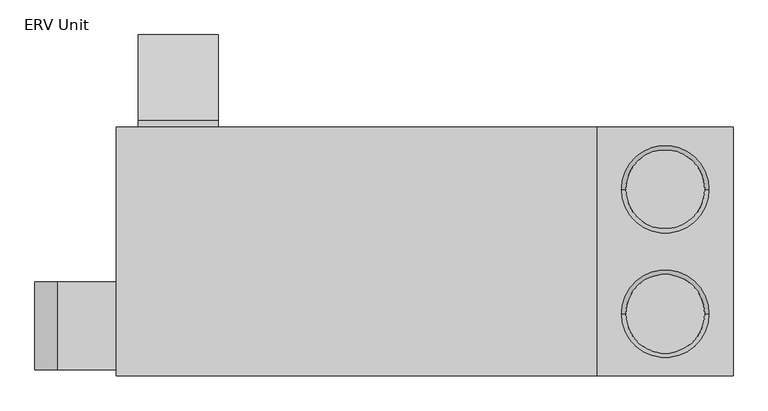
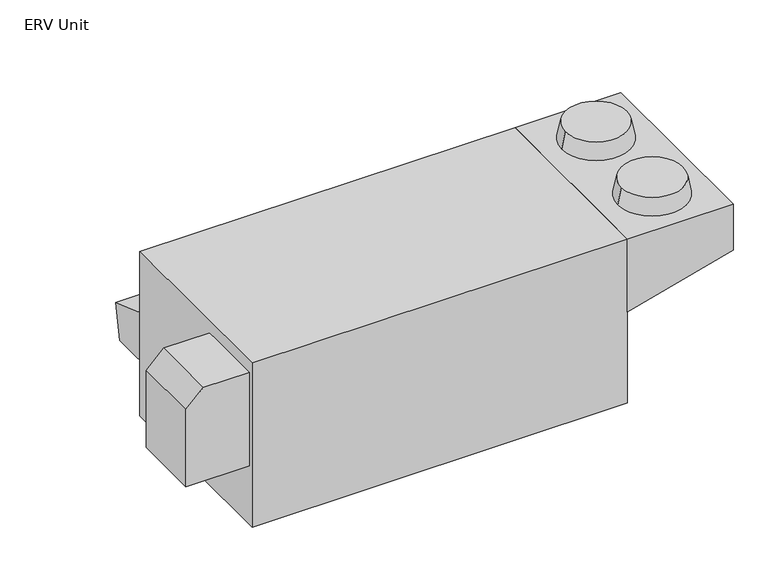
"""IFC4 building model written with IfcOpenShell, lengths in millimetres: proxy geometry, Energy Recovery-ER_H : ERV Unit."""

from ifc_helpers import new_model, si_unit, frame, origin, place, context, project, spatial, polyline, circle_curve, outline, extrude, source, transform, mapped, element, save
from ifc_brep_helpers import plane_surface, revolved_surface, advanced_brep


def erv_unit_62530c4e(model_context):
    return source(origin(), model_context, "Body", "SolidModel", [
        extrude(outline(polyline([(740.0249593, 200.025), (740.0249593, 635.0), (778.1249593, 635.0), (1267.0749593, 463.55), (1216.2749593, 200.025), (740.0249593, 200.025)])), frame((-44.3389519, 0.0, 0.0), z_axis=(1.0, 0.0, 0.0), x_axis=(0.0, 1.0, 0.0)), (0.0, 0.0, 1.0), 457.2),
        advanced_brep(
        [(3188.1285481, -326.7750407, 1346.2), (2736.6435481, -326.7750407, 1346.2), (3213.2110481, -326.7750407, 1219.2), (2711.5610481, -326.7750407, 1219.2)],
        [
            (0, 1, circle_curve(frame((2962.3860481, -326.7750407, 1346.2), z_axis=(0.0, 0.0, 1.0), x_axis=(1.0, 0.0, 0.0)), 225.7425)),
            (1, 0, circle_curve(frame((2962.3860481, -326.7750407, 1346.2), z_axis=(0.0, 0.0, 1.0), x_axis=(-1.0, 0.0, 0.0)), 225.7425)),
            (2, 3, circle_curve(frame((2962.3860481, -326.7750407, 1219.2), z_axis=(0.0, 0.0, -1.0), x_axis=(-1.0, 0.0, 0.0)), 250.825)),
            (3, 2, circle_curve(frame((2962.3860481, -326.7750407, 1219.2), z_axis=(0.0, 0.0, -1.0), x_axis=(1.0, 0.0, 0.0)), 250.825)),
            (3, 1),
            (0, 2),
        ],
        [
            plane_surface(frame((2962.3860481, -326.7750407, 1346.2), z_axis=(0.0, 0.0, 1.0), x_axis=(0.0, 1.0, 0.0))),
            plane_surface(frame((2962.3860481, -326.7750407, 1219.2), z_axis=(0.0, 0.0, -1.0), x_axis=(0.0, 1.0, 0.0))),
            revolved_surface(polyline([(3188.1285481, -326.7750407, 1346.2), (3213.2110481, -326.7750407, 1219.2)]), (2962.3860481, -326.7750407, 2489.2), (0.0, 0.0, -1.0)),
            revolved_surface(polyline([(2736.6435481, -326.7750407, 1346.2), (2711.5610481, -326.7750407, 1219.2)]), (2962.3860481, -326.7750407, 2489.2), (0.0, 0.0, -1.0)),
        ],
        [
            (0, [[1, 2]]),
            (1, [[3, 4]]),
            (2, [[-4, 5, -1, 6]]),
            (3, [[-3, -6, -2, -5]]),
        ],
    ),
        advanced_brep(
        [(3188.1285481, 384.4249593, 1346.2), (2736.6435481, 384.4249593, 1346.2), (3213.2110481, 384.4249593, 1219.2), (2711.5610481, 384.4249593, 1219.2)],
        [
            (0, 1, circle_curve(frame((2962.3860481, 384.4249593, 1346.2), z_axis=(0.0, 0.0, 1.0), x_axis=(1.0, 0.0, 0.0)), 225.7425)),
            (1, 0, circle_curve(frame((2962.3860481, 384.4249593, 1346.2), z_axis=(0.0, 0.0, 1.0), x_axis=(-1.0, 0.0, 0.0)), 225.7425)),
            (2, 3, circle_curve(frame((2962.3860481, 384.4249593, 1219.2), z_axis=(0.0, 0.0, -1.0), x_axis=(-1.0, 0.0, 0.0)), 250.825)),
            (3, 2, circle_curve(frame((2962.3860481, 384.4249593, 1219.2), z_axis=(0.0, 0.0, -1.0), x_axis=(1.0, 0.0, 0.0)), 250.825)),
            (3, 1),
            (0, 2),
        ],
        [
            plane_surface(frame((2962.3860481, 384.4249593, 1346.2), z_axis=(0.0, 0.0, 1.0), x_axis=(0.0, 1.0, 0.0))),
            plane_surface(frame((2962.3860481, 384.4249593, 1219.2), z_axis=(0.0, 0.0, -1.0), x_axis=(0.0, 1.0, 0.0))),
            revolved_surface(polyline([(3188.1285481, 384.4249593, 1346.2), (3213.2110481, 384.4249593, 1219.2)]), (2962.3860481, 384.4249593, 2489.2), (0.0, 0.0, -1.0)),
            revolved_surface(polyline([(2736.6435481, 384.4249593, 1346.2), (2711.5610481, 384.4249593, 1219.2)]), (2962.3860481, 384.4249593, 2489.2), (0.0, 0.0, -1.0)),
        ],
        [
            (0, [[1, 2]]),
            (1, [[3, 4]]),
            (2, [[-4, 5, -1, 6]]),
            (3, [[-3, -6, -2, -5]]),
        ],
    ),
        extrude(outline(polyline([(1219.2, 3349.7360481), (1219.2, 2575.0360481), (654.05, 2575.0360481), (863.6, 3349.7360481), (1219.2, 3349.7360481)])), frame((0.0, -682.3750407, 0.0), z_axis=(0.0, 1.0, 0.0), x_axis=(0.0, 0.0, 1.0)), (0.0, 0.0, 1.0), 1422.4),
        extrude(outline(polyline([(403.225, -171.3389519), (1127.125, -171.3389519), (1127.125, -507.8889519), (1000.125, -634.8889519), (403.225, -634.8889519), (403.225, -171.3389519)])), frame((0.0, -647.4500407, 0.0), z_axis=(0.0, 1.0, 0.0), x_axis=(0.0, 0.0, 1.0)), (0.0, 0.0, 1.0), 501.65),
        extrude(outline(polyline([(2060.6860481, 606.6749593), (2060.6860481, 276.4749593), (1425.6860481, 276.4749593), (1425.6860481, 606.6749593), (2060.6860481, 606.6749593)])), frame((0.0, 0.0, -50.8), z_axis=(0.0, 0.0, 1.0), x_axis=(1.0, 0.0, 0.0)), (0.0, 0.0, 1.0), 3.175),
        extrude(outline(polyline([(2194.0360481, -129.9250407), (2194.0360481, -587.1250407), (1838.4360481, -587.1250407), (1838.4360481, -129.9250407), (2194.0360481, -129.9250407)])), frame((0.0, 0.0, -50.8), z_axis=(0.0, 0.0, 1.0), x_axis=(1.0, 0.0, 0.0)), (0.0, 0.0, 1.0), 3.175),
        extrude(outline(polyline([(2575.0360481, 740.0249593), (2575.0360481, -682.3750407), (-171.3389519, -682.3750407), (-171.3389519, 740.0249593), (2575.0360481, 740.0249593)])), frame((0.0, 0.0, -50.8), z_axis=(0.0, 0.0, 1.0), x_axis=(1.0, 0.0, 0.0)), (0.0, 0.0, 1.0), 1270.0),
    ])


if __name__ == "__main__":
    model = new_model("IFC4")
    model_context = context("Model", 3, world=origin())
    ifc_project = project(units=[si_unit("LENGTHUNIT", "METRE", prefix="MILLI")], contexts=[model_context])
    site = spatial("IfcSite", under=ifc_project)
    building = spatial("IfcBuilding", under=site)
    placement = place(None, origin())
    erv_unit_shape = erv_unit_62530c4e(model_context)
    element("IfcBuildingElementProxy", 1, Name="Energy Recovery-ER_H : ERV Unit", ObjectType="Energy Recovery-ER_H : ERV Unit", at=placement, inside=building, context=model_context, shape_type="MappedRepresentation", body=[
        mapped(erv_unit_shape, transform((0.0, 0.0, 0.0), x_axis=(1.0, 0.0, 0.0), y_axis=(0.0, 1.0, 0.0), z_axis=(0.0, 0.0, 1.0))),
    ])
    save(model, "model.ifc")
